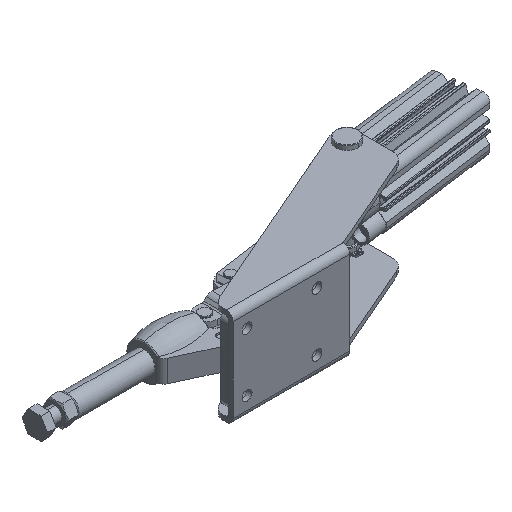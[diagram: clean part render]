
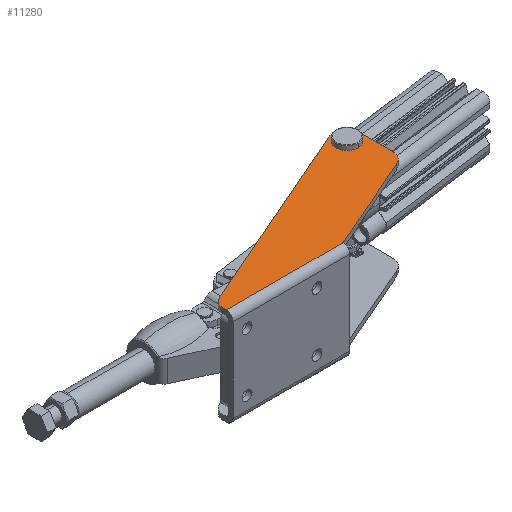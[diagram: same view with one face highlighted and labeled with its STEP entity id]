
A CAD part, isometric view. The second image highlights one B-rep face of the part: STEP entity #11280.
In plain terms, the highlighted planar face has unit normal (0, 0, 1) as drawn and (1, 0, 0) by its records, which use the part's own axes.
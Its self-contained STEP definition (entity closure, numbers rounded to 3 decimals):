
#43 = CARTESIAN_POINT ( 'NONE',  ( 41.75, -80.591, -189.158 ) ) ;
#157 = VERTEX_POINT ( 'NONE', #20894 ) ;
#701 = VECTOR ( 'NONE', #9387, 1000. ) ;
#1604 = AXIS2_PLACEMENT_3D ( 'NONE', #25518, #7250, #28569 ) ;
#2522 = CARTESIAN_POINT ( 'NONE',  ( 41.75, 1.5, 0. ) ) ;
#2982 = LINE ( 'NONE', #7933, #26339 ) ;
#3501 = CARTESIAN_POINT ( 'NONE',  ( 41.75, 75.056, -169.158 ) ) ;
#3967 = LINE ( 'NONE', #20782, #8228 ) ;
#4136 = CARTESIAN_POINT ( 'NONE',  ( 41.75, 4.431, -10. ) ) ;
#4834 = LINE ( 'NONE', #28669, #20074 ) ;
#6202 = CIRCLE ( 'NONE', #13136, 12. ) ;
#6575 = CARTESIAN_POINT ( 'NONE',  ( 41.75, 75.056, -189.158 ) ) ;
#6633 = EDGE_CURVE ( 'NONE', #29903, #35385, #6202, .T. ) ;
#6718 = CARTESIAN_POINT ( 'NONE',  ( 41.75, 75.056, -185.158 ) ) ;
#7092 = CIRCLE ( 'NONE', #25925, 10. ) ;
#7187 = DIRECTION ( 'NONE',  ( 0., 0., 1. ) ) ;
#7250 = DIRECTION ( 'NONE',  ( -1., 0., 0. ) ) ;
#7332 = CARTESIAN_POINT ( 'NONE',  ( 41.75, 86.058, -172.366 ) ) ;
#7568 = AXIS2_PLACEMENT_3D ( 'NONE', #26237, #7978, #29311 ) ;
#7699 = VERTEX_POINT ( 'NONE', #2522 ) ;
#7807 = VERTEX_POINT ( 'NONE', #33556 ) ;
#7933 = CARTESIAN_POINT ( 'NONE',  ( 41.75, 1.5, -103. ) ) ;
#7978 = DIRECTION ( 'NONE',  ( 1., 0., 0. ) ) ;
#8228 = VECTOR ( 'NONE', #21603, 1000. ) ;
#8487 = FACE_BOUND ( 'NONE', #32469, .T. ) ;
#8538 = LINE ( 'NONE', #32031, #31913 ) ;
#8801 = LINE ( 'NONE', #43, #701 ) ;
#9387 = DIRECTION ( 'NONE',  ( 0., 1., 0. ) ) ;
#10206 = VERTEX_POINT ( 'NONE', #6718 ) ;
#10998 = DIRECTION ( 'NONE',  ( 0., 0., -1. ) ) ;
#11176 = ORIENTED_EDGE ( 'NONE', *, *, #32342, .T. ) ;
#11280 = ADVANCED_FACE ( 'NONE', ( #8487, #32792 ), #29549, .F. ) ;
#11285 = DIRECTION ( 'NONE',  ( -1., 0., 0. ) ) ;
#12415 = CARTESIAN_POINT ( 'NONE',  ( 41.75, 75.056, -177.158 ) ) ;
#13136 = AXIS2_PLACEMENT_3D ( 'NONE', #12415, #33732, #15454 ) ;
#13478 = DIRECTION ( 'NONE',  ( 0., 1., 0. ) ) ;
#14295 = EDGE_CURVE ( 'NONE', #10206, #25438, #20302, .T. ) ;
#14920 = CARTESIAN_POINT ( 'NONE',  ( 41.75, 48.067, -177.158 ) ) ;
#15415 = EDGE_CURVE ( 'NONE', #157, #20674, #8801, .T. ) ;
#15454 = DIRECTION ( 'NONE',  ( 0., 1., 0. ) ) ;
#16223 = ORIENTED_EDGE ( 'NONE', *, *, #35053, .T. ) ;
#16793 = AXIS2_PLACEMENT_3D ( 'NONE', #32459, #11285, #32593 ) ;
#17348 = EDGE_CURVE ( 'NONE', #37819, #28581, #3967, .T. ) ;
#17648 = DIRECTION ( 'NONE',  ( -1., 0., 0. ) ) ;
#17986 = DIRECTION ( 'NONE',  ( 0., -1., 0. ) ) ;
#18524 = EDGE_CURVE ( 'NONE', #7699, #31085, #4834, .T. ) ;
#20074 = VECTOR ( 'NONE', #13478, 1000. ) ;
#20302 = CIRCLE ( 'NONE', #1604, 8. ) ;
#20388 = CARTESIAN_POINT ( 'NONE',  ( 41.75, 1.5, -100.295 ) ) ;
#20432 = EDGE_CURVE ( 'NONE', #35385, #7807, #8538, .T. ) ;
#20674 = VERTEX_POINT ( 'NONE', #6575 ) ;
#20782 = CARTESIAN_POINT ( 'NONE',  ( 41.75, 37.065, -181.95 ) ) ;
#20894 = CARTESIAN_POINT ( 'NONE',  ( 41.75, 48.067, -189.158 ) ) ;
#21603 = DIRECTION ( 'NONE',  ( 0., 0.399, -0.917 ) ) ;
#22028 = CIRCLE ( 'NONE', #36083, 12. ) ;
#22193 = ORIENTED_EDGE ( 'NONE', *, *, #38132, .F. ) ;
#22575 = CARTESIAN_POINT ( 'NONE',  ( 41.75, 4.431, 0. ) ) ;
#25438 = VERTEX_POINT ( 'NONE', #3501 ) ;
#25450 = DIRECTION ( 'NONE',  ( -1., 0., 0. ) ) ;
#25518 = CARTESIAN_POINT ( 'NONE',  ( 41.75, 75.056, -177.158 ) ) ;
#25671 = EDGE_CURVE ( 'NONE', #20674, #29903, #37005, .T. ) ;
#25925 = AXIS2_PLACEMENT_3D ( 'NONE', #4136, #25450, #7187 ) ;
#26237 = CARTESIAN_POINT ( 'NONE',  ( 41.75, 75.056, -177.158 ) ) ;
#26339 = VECTOR ( 'NONE', #10998, 1000. ) ;
#26368 = EDGE_LOOP ( 'NONE', ( #35753, #27701, #33636, #22193, #31185, #28994, #31029, #16223, #38235 ) ) ;
#26529 = CARTESIAN_POINT ( 'NONE',  ( 41.75, 37.065, -181.95 ) ) ;
#27701 = ORIENTED_EDGE ( 'NONE', *, *, #6633, .T. ) ;
#27817 = CIRCLE ( 'NONE', #29938, 8. ) ;
#28569 = DIRECTION ( 'NONE',  ( 0., 0., 1. ) ) ;
#28581 = VERTEX_POINT ( 'NONE', #26529 ) ;
#28669 = CARTESIAN_POINT ( 'NONE',  ( 41.75, -84.819, 0. ) ) ;
#28994 = ORIENTED_EDGE ( 'NONE', *, *, #34411, .T. ) ;
#29311 = DIRECTION ( 'NONE',  ( 0., 1., 0. ) ) ;
#29549 = PLANE ( 'NONE',  #16793 ) ;
#29903 = VERTEX_POINT ( 'NONE', #31233 ) ;
#29938 = AXIS2_PLACEMENT_3D ( 'NONE', #35915, #17648, #38963 ) ;
#31029 = ORIENTED_EDGE ( 'NONE', *, *, #17348, .T. ) ;
#31085 = VERTEX_POINT ( 'NONE', #22575 ) ;
#31185 = ORIENTED_EDGE ( 'NONE', *, *, #18524, .F. ) ;
#31233 = CARTESIAN_POINT ( 'NONE',  ( 41.75, 87.056, -177.158 ) ) ;
#31829 = ORIENTED_EDGE ( 'NONE', *, *, #14295, .T. ) ;
#31913 = VECTOR ( 'NONE', #34709, 1000. ) ;
#32031 = CARTESIAN_POINT ( 'NONE',  ( 41.75, 13.599, -6.007 ) ) ;
#32342 = EDGE_CURVE ( 'NONE', #25438, #10206, #27817, .T. ) ;
#32459 = CARTESIAN_POINT ( 'NONE',  ( 41.75, -80.591, -103. ) ) ;
#32469 = EDGE_LOOP ( 'NONE', ( #11176, #31829 ) ) ;
#32593 = DIRECTION ( 'NONE',  ( 0., 0., 1. ) ) ;
#32792 = FACE_OUTER_BOUND ( 'NONE', #26368, .T. ) ;
#33556 = CARTESIAN_POINT ( 'NONE',  ( 41.75, 13.599, -6.007 ) ) ;
#33636 = ORIENTED_EDGE ( 'NONE', *, *, #20432, .T. ) ;
#33732 = DIRECTION ( 'NONE',  ( 1., 0., 0. ) ) ;
#34411 = EDGE_CURVE ( 'NONE', #7699, #37819, #2982, .T. ) ;
#34709 = DIRECTION ( 'NONE',  ( 0., -0.399, 0.917 ) ) ;
#35053 = EDGE_CURVE ( 'NONE', #28581, #157, #22028, .T. ) ;
#35385 = VERTEX_POINT ( 'NONE', #7332 ) ;
#35753 = ORIENTED_EDGE ( 'NONE', *, *, #25671, .T. ) ;
#35915 = CARTESIAN_POINT ( 'NONE',  ( 41.75, 75.056, -177.158 ) ) ;
#36083 = AXIS2_PLACEMENT_3D ( 'NONE', #14920, #36253, #17986 ) ;
#36253 = DIRECTION ( 'NONE',  ( 1., 0., 0. ) ) ;
#37005 = CIRCLE ( 'NONE', #7568, 12. ) ;
#37819 = VERTEX_POINT ( 'NONE', #20388 ) ;
#38132 = EDGE_CURVE ( 'NONE', #31085, #7807, #7092, .T. ) ;
#38235 = ORIENTED_EDGE ( 'NONE', *, *, #15415, .T. ) ;
#38963 = DIRECTION ( 'NONE',  ( 0., 0., 1. ) ) ;
